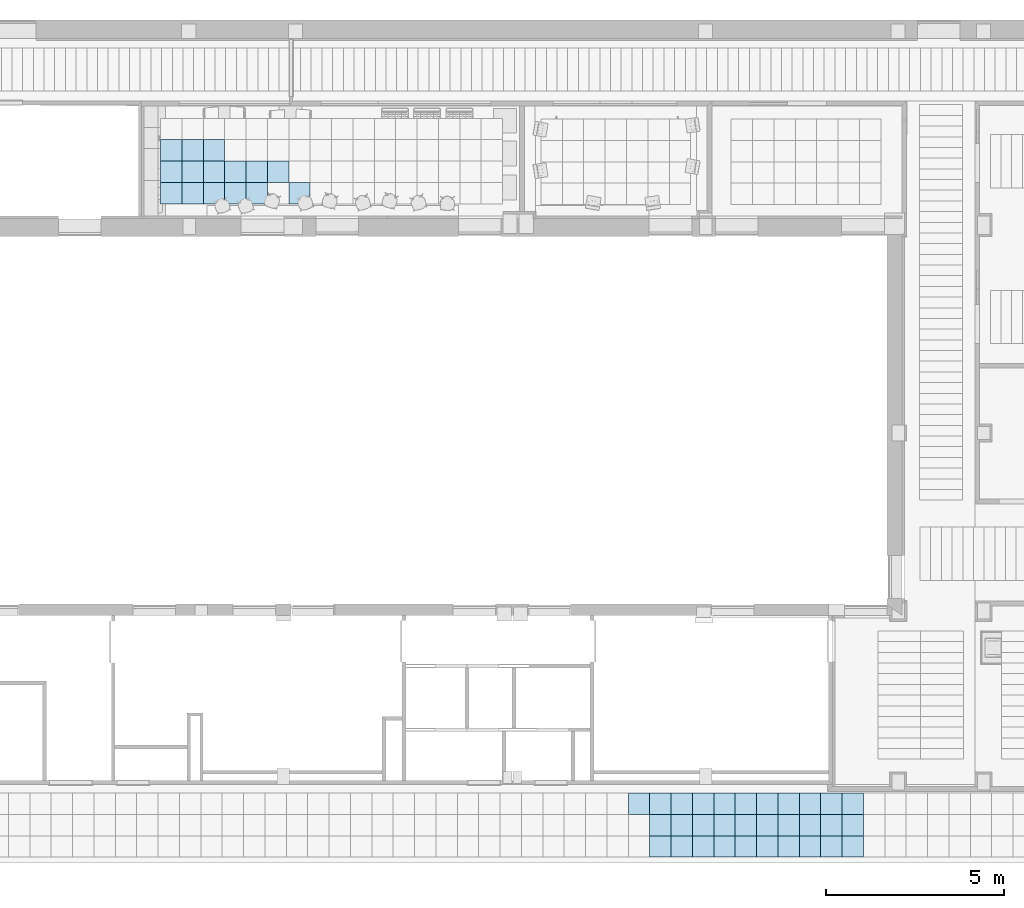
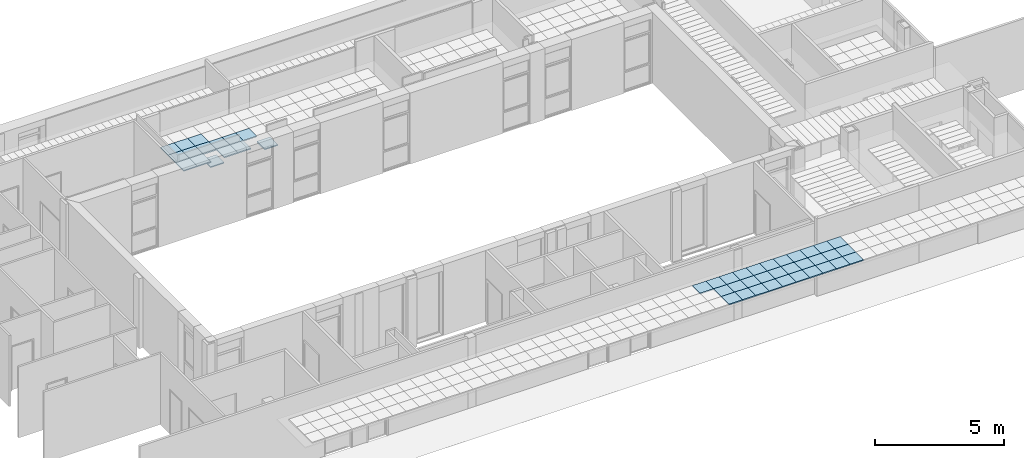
# One storey, part 16 of 60: 46 slabs.
"""IFC2X3 building model written with IfcOpenShell, lengths in millimetres."""

from ifc_helpers import new_model, entity, si_unit, converted_unit, derived_unit, money_unit, direction, frame, origin_with_axes, place, context, subcontext, project, spatial, polyline, outline, extrude, material, layer, layer_set, layer_usage, type_object, element, save


model = new_model("IFC2X3")

# Units and contexts
model_context = context("Model", 3, precision=0.01, world=origin_with_axes(), true_north=direction((0.0, 1.0)))
body_context = subcontext(model_context, "Body", "Model", "MODEL_VIEW")
ifc_project = project(units=[si_unit("LENGTHUNIT", "METRE", prefix="MILLI"), si_unit("AREAUNIT", "SQUARE_METRE"), si_unit("VOLUMEUNIT", "CUBIC_METRE"), converted_unit("PLANEANGLEUNIT", "DEGREE", entity("IfcPlaneAngleMeasure", 0.0174532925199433), si_unit("PLANEANGLEUNIT", "RADIAN"), dimensions=[0, 0, 0, 0, 0, 0, 0]), money_unit("USD"), converted_unit("TIMEUNIT", "Year", entity("IfcTimeMeasure", 31557600.0), si_unit("TIMEUNIT", "SECOND"), dimensions=[0, 0, 1, 0, 0, 0, 0]), si_unit("MASSUNIT", "GRAM", prefix="KILO"), si_unit("THERMODYNAMICTEMPERATUREUNIT", "DEGREE_CELSIUS"), si_unit("LUMINOUSINTENSITYUNIT", "LUMEN"), si_unit("ENERGYUNIT", "JOULE", prefix="MEGA"), derived_unit("THERMALCONDUCTANCEUNIT", [(si_unit("POWERUNIT", "WATT"), 1), (si_unit("LENGTHUNIT", "METRE"), -1), (si_unit("THERMODYNAMICTEMPERATUREUNIT", "KELVIN"), -1)]), derived_unit("SPECIFICHEATCAPACITYUNIT", [(si_unit("ENERGYUNIT", "JOULE"), 1), (si_unit("MASSUNIT", "GRAM", prefix="KILO"), -1), (si_unit("THERMODYNAMICTEMPERATUREUNIT", "KELVIN"), -1)]), derived_unit("MASSDENSITYUNIT", [(si_unit("MASSUNIT", "GRAM", prefix="KILO"), 1), (si_unit("VOLUMEUNIT", "CUBIC_METRE"), -1)])], contexts=[model_context])

# Site, building, storey
site_placement = place(None, origin_with_axes())
site = spatial("IfcSite", under=ifc_project, at=site_placement, Name="Sitio", CompositionType="ELEMENT")
building_placement = place(site_placement, origin_with_axes())
building = spatial("IfcBuilding", under=site, at=building_placement, Name="Construcción", CompositionType="ELEMENT")
storey_placement = place(building_placement, frame((0.0, 0.0, 3650.0), z_axis=(0.0, 0.0, 1.0), x_axis=(1.0, 0.0, 0.0)))
storey = spatial("IfcBuildingStorey", under=building, at=storey_placement, Name="PLANTA 2ª", CompositionType="ELEMENT", Elevation=3650.0)

# Slabs
ifc_material = material(Name="ARQ_CE217_Armstrong 60x60")
ifc_layer = layer(ifc_material, 50.0, ventilated="UNKNOWN")
ifc_layer_set = layer_set([ifc_layer], Name="ARQ_CE217_Armstrong 60x60 50")
ifc_layer_usage_1 = layer_usage(ifc_layer_set, "AXIS3", "NEGATIVE", 50.0)
slab_type = type_object("IfcSlabType", Name="ARQ_CE217_Armstrong 60x60 50", PredefinedType="NOTDEFINED")
slab_1_placement = place(storey_placement, frame((-19498.41789761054, -182.7104764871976, 2500.0), z_axis=(0.0, 0.0, 1.0), x_axis=(1.0, 0.0, 0.0)))
element("IfcSlab", 1, at=slab_1_placement, inside=storey, type_object=slab_type, material=ifc_layer_usage_1, Name="SLA - 026", PredefinedType="NOTDEFINED", context=body_context, shape_type="SweptSolid", body=[
    extrude(outline(polyline([(0.0, 0.0), (599.9999999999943, 0.0), (599.9999999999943, 600.0000000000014), (0.0, 600.0000000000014), (0.0, 0.0)])), frame((0.0, 0.0, -50.0), z_axis=(0.0, 0.0, 1.0), x_axis=(1.0, 0.0, 0.0)), (0.0, 0.0, 1.0), 50.0),
])
ifc_layer_usage_2 = layer_usage(ifc_layer_set, "AXIS3", "NEGATIVE", 50.0)
slab_2_placement = place(storey_placement, frame((-20098.41789761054, -782.710476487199, 2500.0), z_axis=(0.0, 0.0, 1.0), x_axis=(1.0, 0.0, 0.0)))
element("IfcSlab", 2, at=slab_2_placement, inside=storey, type_object=slab_type, material=ifc_layer_usage_2, Name="SLA - 026", PredefinedType="NOTDEFINED", context=body_context, shape_type="SweptSolid", body=[
    extrude(outline(polyline([(0.0, 0.0), (600.000000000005, 0.0), (600.000000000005, 600.0000000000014), (0.0, 600.0000000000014), (0.0, 0.0)])), frame((0.0, 0.0, -50.0), z_axis=(0.0, 0.0, 1.0), x_axis=(1.0, 0.0, 0.0)), (0.0, 0.0, 1.0), 50.0),
])
ifc_layer_usage_3 = layer_usage(ifc_layer_set, "AXIS3", "NEGATIVE", 50.0)
slab_3_placement = place(storey_placement, frame((-21298.41789761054, -782.710476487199, 2250.0), z_axis=(0.0, 0.0, 1.0), x_axis=(1.0, 0.0, 0.0)))
element("IfcSlab", 3, at=slab_3_placement, inside=storey, type_object=slab_type, material=ifc_layer_usage_3, Name="SLA - 026", PredefinedType="NOTDEFINED", context=body_context, shape_type="SweptSolid", body=[
    extrude(outline(polyline([(0.0, 0.0), (599.9999999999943, 0.0), (599.9999999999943, 600.0000000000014), (0.0, 600.0000000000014), (0.0, 0.0)])), frame((0.0, 0.0, -50.0), z_axis=(0.0, 0.0, 1.0), x_axis=(1.0, 0.0, 0.0)), (0.0, 0.0, 1.0), 50.0),
])
ifc_layer_usage_4 = layer_usage(ifc_layer_set, "AXIS3", "NEGATIVE", 50.0)
slab_4_placement = place(storey_placement, frame((-18898.41789761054, -782.710476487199, 2250.0), z_axis=(0.0, 0.0, 1.0), x_axis=(1.0, 0.0, 0.0)))
element("IfcSlab", 4, at=slab_4_placement, inside=storey, type_object=slab_type, material=ifc_layer_usage_4, Name="SLA - 026", PredefinedType="NOTDEFINED", context=body_context, shape_type="SweptSolid", body=[
    extrude(outline(polyline([(0.0, 0.0), (600.0000000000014, 0.0), (600.0000000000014, 600.0000000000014), (0.0, 600.0000000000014), (0.0, 0.0)])), frame((0.0, 0.0, -50.0), z_axis=(0.0, 0.0, 1.0), x_axis=(1.0, 0.0, 0.0)), (0.0, 0.0, 1.0), 50.0),
])
ifc_layer_usage_5 = layer_usage(ifc_layer_set, "AXIS3", "NEGATIVE", 50.0)
slab_5_placement = place(storey_placement, frame((-20098.41789761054, -182.7104764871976, 2500.0), z_axis=(0.0, 0.0, 1.0), x_axis=(1.0, 0.0, 0.0)))
element("IfcSlab", 5, at=slab_5_placement, inside=storey, type_object=slab_type, material=ifc_layer_usage_5, Name="SLA - 026", PredefinedType="NOTDEFINED", context=body_context, shape_type="SweptSolid", body=[
    extrude(outline(polyline([(0.0, 0.0), (600.000000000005, 0.0), (600.000000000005, 600.0000000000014), (0.0, 600.0000000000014), (0.0, 0.0)])), frame((0.0, 0.0, -50.0), z_axis=(0.0, 0.0, 1.0), x_axis=(1.0, 0.0, 0.0)), (0.0, 0.0, 1.0), 50.0),
])
ifc_layer_usage_6 = layer_usage(ifc_layer_set, "AXIS3", "NEGATIVE", 50.0)
slab_6_placement = place(storey_placement, frame((-22498.41789761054, -782.710476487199, 2500.0), z_axis=(0.0, 0.0, 1.0), x_axis=(1.0, 0.0, 0.0)))
element("IfcSlab", 6, at=slab_6_placement, inside=storey, type_object=slab_type, material=ifc_layer_usage_6, Name="SLA - 026", PredefinedType="NOTDEFINED", context=body_context, shape_type="SweptSolid", body=[
    extrude(outline(polyline([(0.0, 0.0), (600.0000000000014, 0.0), (600.0000000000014, 600.0000000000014), (0.0, 600.0000000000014), (0.0, 0.0)])), frame((0.0, 0.0, -50.0), z_axis=(0.0, 0.0, 1.0), x_axis=(1.0, 0.0, 0.0)), (0.0, 0.0, 1.0), 50.0),
])
ifc_layer_usage_7 = layer_usage(ifc_layer_set, "AXIS3", "NEGATIVE", 50.0)
slab_7_placement = place(storey_placement, frame((-21898.41789761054, -182.7104764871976, 2500.0), z_axis=(0.0, 0.0, 1.0), x_axis=(1.0, 0.0, 0.0)))
element("IfcSlab", 7, at=slab_7_placement, inside=storey, type_object=slab_type, material=ifc_layer_usage_7, Name="SLA - 026", PredefinedType="NOTDEFINED", context=body_context, shape_type="SweptSolid", body=[
    extrude(outline(polyline([(0.0, 0.0), (600.0000000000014, 0.0), (600.0000000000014, 600.0000000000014), (0.0, 600.0000000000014), (0.0, 0.0)])), frame((0.0, 0.0, -50.0), z_axis=(0.0, 0.0, 1.0), x_axis=(1.0, 0.0, 0.0)), (0.0, 0.0, 1.0), 50.0),
])
ifc_layer_usage_8 = layer_usage(ifc_layer_set, "AXIS3", "NEGATIVE", 50.0)
slab_8_placement = place(storey_placement, frame((-22498.41789761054, -182.7104764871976, 2500.0), z_axis=(0.0, 0.0, 1.0), x_axis=(1.0, 0.0, 0.0)))
element("IfcSlab", 8, at=slab_8_placement, inside=storey, type_object=slab_type, material=ifc_layer_usage_8, Name="SLA - 026", PredefinedType="NOTDEFINED", context=body_context, shape_type="SweptSolid", body=[
    extrude(outline(polyline([(0.0, 0.0), (600.0000000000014, 0.0), (600.0000000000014, 600.0000000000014), (0.0, 600.0000000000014), (0.0, 0.0)])), frame((0.0, 0.0, -50.0), z_axis=(0.0, 0.0, 1.0), x_axis=(1.0, 0.0, 0.0)), (0.0, 0.0, 1.0), 50.0),
])
ifc_layer_usage_9 = layer_usage(ifc_layer_set, "AXIS3", "NEGATIVE", 50.0)
slab_9_placement = place(storey_placement, frame((-20698.41789761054, -782.710476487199, 2500.0), z_axis=(0.0, 0.0, 1.0), x_axis=(1.0, 0.0, 0.0)))
element("IfcSlab", 9, at=slab_9_placement, inside=storey, type_object=slab_type, material=ifc_layer_usage_9, Name="SLA - 026", PredefinedType="NOTDEFINED", context=body_context, shape_type="SweptSolid", body=[
    extrude(outline(polyline([(0.0, 0.0), (600.0000000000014, 0.0), (600.0000000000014, 600.0000000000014), (0.0, 600.0000000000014), (0.0, 0.0)])), frame((0.0, 0.0, -50.0), z_axis=(0.0, 0.0, 1.0), x_axis=(1.0, 0.0, 0.0)), (0.0, 0.0, 1.0), 50.0),
])
ifc_layer_usage_10 = layer_usage(ifc_layer_set, "AXIS3", "NEGATIVE", 50.0)
slab_10_placement = place(storey_placement, frame((-21298.41789761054, -182.7104764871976, 2500.0), z_axis=(0.0, 0.0, 1.0), x_axis=(1.0, 0.0, 0.0)))
element("IfcSlab", 10, at=slab_10_placement, inside=storey, type_object=slab_type, material=ifc_layer_usage_10, Name="SLA - 026", PredefinedType="NOTDEFINED", context=body_context, shape_type="SweptSolid", body=[
    extrude(outline(polyline([(0.0, 0.0), (599.9999999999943, 0.0), (599.9999999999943, 600.0000000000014), (0.0, 600.0000000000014), (0.0, 0.0)])), frame((0.0, 0.0, -50.0), z_axis=(0.0, 0.0, 1.0), x_axis=(1.0, 0.0, 0.0)), (0.0, 0.0, 1.0), 50.0),
])
ifc_layer_usage_11 = layer_usage(ifc_layer_set, "AXIS3", "NEGATIVE", 50.0)
slab_11_placement = place(storey_placement, frame((-21898.41789761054, 417.2895235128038, 2500.0), z_axis=(0.0, 0.0, 1.0), x_axis=(1.0, 0.0, 0.0)))
element("IfcSlab", 11, at=slab_11_placement, inside=storey, type_object=slab_type, material=ifc_layer_usage_11, Name="SLA - 026", PredefinedType="NOTDEFINED", context=body_context, shape_type="SweptSolid", body=[
    extrude(outline(polyline([(0.0, 0.0), (600.0000000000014, 0.0), (600.0000000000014, 600.0000000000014), (0.0, 600.0000000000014), (0.0, 0.0)])), frame((0.0, 0.0, -50.0), z_axis=(0.0, 0.0, 1.0), x_axis=(1.0, 0.0, 0.0)), (0.0, 0.0, 1.0), 50.0),
])
ifc_layer_usage_12 = layer_usage(ifc_layer_set, "AXIS3", "NEGATIVE", 50.0)
slab_12_placement = place(storey_placement, frame((-20698.41789761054, -182.7104764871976, 2500.0), z_axis=(0.0, 0.0, 1.0), x_axis=(1.0, 0.0, 0.0)))
element("IfcSlab", 12, at=slab_12_placement, inside=storey, type_object=slab_type, material=ifc_layer_usage_12, Name="SLA - 026", PredefinedType="NOTDEFINED", context=body_context, shape_type="SweptSolid", body=[
    extrude(outline(polyline([(0.0, 0.0), (600.0000000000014, 0.0), (600.0000000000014, 600.0000000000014), (0.0, 600.0000000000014), (0.0, 0.0)])), frame((0.0, 0.0, -50.0), z_axis=(0.0, 0.0, 1.0), x_axis=(1.0, 0.0, 0.0)), (0.0, 0.0, 1.0), 50.0),
])
ifc_layer_usage_13 = layer_usage(ifc_layer_set, "AXIS3", "NEGATIVE", 50.0)
slab_13_placement = place(storey_placement, frame((-21298.41789761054, 417.2895235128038, 2500.0), z_axis=(0.0, 0.0, 1.0), x_axis=(1.0, 0.0, 0.0)))
element("IfcSlab", 13, at=slab_13_placement, inside=storey, type_object=slab_type, material=ifc_layer_usage_13, Name="SLA - 026", PredefinedType="NOTDEFINED", context=body_context, shape_type="SweptSolid", body=[
    extrude(outline(polyline([(0.0, 0.0), (599.9999999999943, 0.0), (599.9999999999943, 600.0000000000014), (0.0, 600.0000000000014), (0.0, 0.0)])), frame((0.0, 0.0, -50.0), z_axis=(0.0, 0.0, 1.0), x_axis=(1.0, 0.0, 0.0)), (0.0, 0.0, 1.0), 50.0),
])
ifc_layer_usage_14 = layer_usage(ifc_layer_set, "AXIS3", "NEGATIVE", 50.0)
slab_14_placement = place(storey_placement, frame((-22498.41789761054, 417.2895235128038, 2500.0), z_axis=(0.0, 0.0, 1.0), x_axis=(1.0, 0.0, 0.0)))
element("IfcSlab", 14, at=slab_14_placement, inside=storey, type_object=slab_type, material=ifc_layer_usage_14, Name="SLA - 026", PredefinedType="NOTDEFINED", context=body_context, shape_type="SweptSolid", body=[
    extrude(outline(polyline([(0.0, 0.0), (600.0000000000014, 0.0), (600.0000000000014, 600.0000000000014), (0.0, 600.0000000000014), (0.0, 0.0)])), frame((0.0, 0.0, -50.0), z_axis=(0.0, 0.0, 1.0), x_axis=(1.0, 0.0, 0.0)), (0.0, 0.0, 1.0), 50.0),
])
ifc_layer_usage_15 = layer_usage(ifc_layer_set, "AXIS3", "NEGATIVE", 50.0)
slab_15_placement = place(storey_placement, frame((-21898.41789761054, -782.710476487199, 2500.0), z_axis=(0.0, 0.0, 1.0), x_axis=(1.0, 0.0, 0.0)))
element("IfcSlab", 15, at=slab_15_placement, inside=storey, type_object=slab_type, material=ifc_layer_usage_15, Name="SLA - 026", PredefinedType="NOTDEFINED", context=body_context, shape_type="SweptSolid", body=[
    extrude(outline(polyline([(0.0, 0.0), (600.0000000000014, 0.0), (600.0000000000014, 600.0000000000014), (0.0, 600.0000000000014), (0.0, 0.0)])), frame((0.0, 0.0, -50.0), z_axis=(0.0, 0.0, 1.0), x_axis=(1.0, 0.0, 0.0)), (0.0, 0.0, 1.0), 50.0),
])
ifc_layer_usage_16 = layer_usage(ifc_layer_set, "AXIS3", "NEGATIVE", 50.0)
slab_16_placement = place(storey_placement, frame((-9369.70328336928, -17921.97576450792, 2500.0), z_axis=(0.0, 0.0, 1.0), x_axis=(1.0, 0.0, 0.0)))
element("IfcSlab", 16, at=slab_16_placement, inside=storey, type_object=slab_type, material=ifc_layer_usage_16, Name="SLA - 026", PredefinedType="NOTDEFINED", context=body_context, shape_type="SweptSolid", body=[
    extrude(outline(polyline([(0.0, 0.0), (600.0000000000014, 0.0), (600.0000000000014, 600.0000000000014), (0.0, 600.0000000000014), (0.0, 0.0)])), frame((0.0, 0.0, -50.0), z_axis=(0.0, 0.0, 1.0), x_axis=(1.0, 0.0, 0.0)), (0.0, 0.0, 1.0), 50.0),
])
ifc_layer_usage_17 = layer_usage(ifc_layer_set, "AXIS3", "NEGATIVE", 50.0)
slab_17_placement = place(storey_placement, frame((-8769.703283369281, -19121.97576450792, 2500.0), z_axis=(0.0, 0.0, 1.0), x_axis=(1.0, 0.0, 0.0)))
element("IfcSlab", 17, at=slab_17_placement, inside=storey, type_object=slab_type, material=ifc_layer_usage_17, Name="SLA - 026", PredefinedType="NOTDEFINED", context=body_context, shape_type="SweptSolid", body=[
    extrude(outline(polyline([(0.0, 0.0), (600.0000000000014, 0.0), (600.0000000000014, 600.0000000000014), (0.0, 600.0000000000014), (0.0, 0.0)])), frame((0.0, 0.0, -50.0), z_axis=(0.0, 0.0, 1.0), x_axis=(1.0, 0.0, 0.0)), (0.0, 0.0, 1.0), 50.0),
])
ifc_layer_usage_18 = layer_usage(ifc_layer_set, "AXIS3", "NEGATIVE", 50.0)
slab_18_placement = place(storey_placement, frame((-8769.703283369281, -18521.97576450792, 2500.0), z_axis=(0.0, 0.0, 1.0), x_axis=(1.0, 0.0, 0.0)))
element("IfcSlab", 18, at=slab_18_placement, inside=storey, type_object=slab_type, material=ifc_layer_usage_18, Name="SLA - 026", PredefinedType="NOTDEFINED", context=body_context, shape_type="SweptSolid", body=[
    extrude(outline(polyline([(0.0, 0.0), (600.0000000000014, 0.0), (600.0000000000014, 600.0000000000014), (0.0, 600.0000000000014), (0.0, 0.0)])), frame((0.0, 0.0, -50.0), z_axis=(0.0, 0.0, 1.0), x_axis=(1.0, 0.0, 0.0)), (0.0, 0.0, 1.0), 50.0),
])
ifc_layer_usage_19 = layer_usage(ifc_layer_set, "AXIS3", "NEGATIVE", 50.0)
slab_19_placement = place(storey_placement, frame((-8769.703283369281, -17921.97576450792, 2500.0), z_axis=(0.0, 0.0, 1.0), x_axis=(1.0, 0.0, 0.0)))
element("IfcSlab", 19, at=slab_19_placement, inside=storey, type_object=slab_type, material=ifc_layer_usage_19, Name="SLA - 026", PredefinedType="NOTDEFINED", context=body_context, shape_type="SweptSolid", body=[
    extrude(outline(polyline([(0.0, 0.0), (600.0000000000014, 0.0), (600.0000000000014, 600.0000000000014), (0.0, 600.0000000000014), (0.0, 0.0)])), frame((0.0, 0.0, -50.0), z_axis=(0.0, 0.0, 1.0), x_axis=(1.0, 0.0, 0.0)), (0.0, 0.0, 1.0), 50.0),
])
ifc_layer_usage_20 = layer_usage(ifc_layer_set, "AXIS3", "NEGATIVE", 50.0)
slab_20_placement = place(storey_placement, frame((-8169.70328336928, -18521.97576450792, 2500.0), z_axis=(0.0, 0.0, 1.0), x_axis=(1.0, 0.0, 0.0)))
element("IfcSlab", 20, at=slab_20_placement, inside=storey, type_object=slab_type, material=ifc_layer_usage_20, Name="SLA - 026", PredefinedType="NOTDEFINED", context=body_context, shape_type="SweptSolid", body=[
    extrude(outline(polyline([(0.0, 0.0), (600.0000000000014, 0.0), (600.0000000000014, 600.0000000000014), (0.0, 600.0000000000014), (0.0, 0.0)])), frame((0.0, 0.0, -50.0), z_axis=(0.0, 0.0, 1.0), x_axis=(1.0, 0.0, 0.0)), (0.0, 0.0, 1.0), 50.0),
])
ifc_layer_usage_21 = layer_usage(ifc_layer_set, "AXIS3", "NEGATIVE", 50.0)
slab_21_placement = place(storey_placement, frame((-8169.70328336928, -17921.97576450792, 2500.0), z_axis=(0.0, 0.0, 1.0), x_axis=(1.0, 0.0, 0.0)))
element("IfcSlab", 21, at=slab_21_placement, inside=storey, type_object=slab_type, material=ifc_layer_usage_21, Name="SLA - 026", PredefinedType="NOTDEFINED", context=body_context, shape_type="SweptSolid", body=[
    extrude(outline(polyline([(0.0, 0.0), (600.0000000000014, 0.0), (600.0000000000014, 600.0000000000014), (0.0, 600.0000000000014), (0.0, 0.0)])), frame((0.0, 0.0, -50.0), z_axis=(0.0, 0.0, 1.0), x_axis=(1.0, 0.0, 0.0)), (0.0, 0.0, 1.0), 50.0),
])
ifc_layer_usage_22 = layer_usage(ifc_layer_set, "AXIS3", "NEGATIVE", 50.0)
slab_22_placement = place(storey_placement, frame((-8169.70328336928, -19121.97576450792, 2500.0), z_axis=(0.0, 0.0, 1.0), x_axis=(1.0, 0.0, 0.0)))
element("IfcSlab", 22, at=slab_22_placement, inside=storey, type_object=slab_type, material=ifc_layer_usage_22, Name="SLA - 026", PredefinedType="NOTDEFINED", context=body_context, shape_type="SweptSolid", body=[
    extrude(outline(polyline([(0.0, 0.0), (600.0000000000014, 0.0), (600.0000000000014, 600.0000000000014), (0.0, 600.0000000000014), (0.0, 0.0)])), frame((0.0, 0.0, -50.0), z_axis=(0.0, 0.0, 1.0), x_axis=(1.0, 0.0, 0.0)), (0.0, 0.0, 1.0), 50.0),
])
ifc_layer_usage_23 = layer_usage(ifc_layer_set, "AXIS3", "NEGATIVE", 50.0)
slab_23_placement = place(storey_placement, frame((-7569.703283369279, -18521.97576450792, 2500.0), z_axis=(0.0, 0.0, 1.0), x_axis=(1.0, 0.0, 0.0)))
element("IfcSlab", 23, at=slab_23_placement, inside=storey, type_object=slab_type, material=ifc_layer_usage_23, Name="SLA - 026", PredefinedType="NOTDEFINED", context=body_context, shape_type="SweptSolid", body=[
    extrude(outline(polyline([(0.0, 0.0), (600.0000000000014, 0.0), (600.0000000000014, 600.0000000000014), (0.0, 600.0000000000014), (0.0, 0.0)])), frame((0.0, 0.0, -50.0), z_axis=(0.0, 0.0, 1.0), x_axis=(1.0, 0.0, 0.0)), (0.0, 0.0, 1.0), 50.0),
])
ifc_layer_usage_24 = layer_usage(ifc_layer_set, "AXIS3", "NEGATIVE", 50.0)
slab_24_placement = place(storey_placement, frame((-7569.703283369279, -19121.97576450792, 2500.0), z_axis=(0.0, 0.0, 1.0), x_axis=(1.0, 0.0, 0.0)))
element("IfcSlab", 24, at=slab_24_placement, inside=storey, type_object=slab_type, material=ifc_layer_usage_24, Name="SLA - 026", PredefinedType="NOTDEFINED", context=body_context, shape_type="SweptSolid", body=[
    extrude(outline(polyline([(0.0, 0.0), (600.0000000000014, 0.0), (600.0000000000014, 600.0000000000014), (0.0, 600.0000000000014), (0.0, 0.0)])), frame((0.0, 0.0, -50.0), z_axis=(0.0, 0.0, 1.0), x_axis=(1.0, 0.0, 0.0)), (0.0, 0.0, 1.0), 50.0),
])
ifc_layer_usage_25 = layer_usage(ifc_layer_set, "AXIS3", "NEGATIVE", 50.0)
slab_25_placement = place(storey_placement, frame((-7569.703283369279, -17921.97576450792, 2500.0), z_axis=(0.0, 0.0, 1.0), x_axis=(1.0, 0.0, 0.0)))
element("IfcSlab", 25, at=slab_25_placement, inside=storey, type_object=slab_type, material=ifc_layer_usage_25, Name="SLA - 026", PredefinedType="NOTDEFINED", context=body_context, shape_type="SweptSolid", body=[
    extrude(outline(polyline([(0.0, 0.0), (600.0000000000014, 0.0), (600.0000000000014, 600.0000000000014), (0.0, 600.0000000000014), (0.0, 0.0)])), frame((0.0, 0.0, -50.0), z_axis=(0.0, 0.0, 1.0), x_axis=(1.0, 0.0, 0.0)), (0.0, 0.0, 1.0), 50.0),
])
ifc_layer_usage_26 = layer_usage(ifc_layer_set, "AXIS3", "NEGATIVE", 50.0)
slab_26_placement = place(storey_placement, frame((-6969.703283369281, -19121.97576450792, 2500.0), z_axis=(0.0, 0.0, 1.0), x_axis=(1.0, 0.0, 0.0)))
element("IfcSlab", 26, at=slab_26_placement, inside=storey, type_object=slab_type, material=ifc_layer_usage_26, Name="SLA - 026", PredefinedType="NOTDEFINED", context=body_context, shape_type="SweptSolid", body=[
    extrude(outline(polyline([(0.0, 0.0), (600.0000000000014, 0.0), (600.0000000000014, 600.0000000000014), (0.0, 600.0000000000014), (0.0, 0.0)])), frame((0.0, 0.0, -50.0), z_axis=(0.0, 0.0, 1.0), x_axis=(1.0, 0.0, 0.0)), (0.0, 0.0, 1.0), 50.0),
])
ifc_layer_usage_27 = layer_usage(ifc_layer_set, "AXIS3", "NEGATIVE", 50.0)
slab_27_placement = place(storey_placement, frame((-6969.703283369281, -17921.97576450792, 2500.0), z_axis=(0.0, 0.0, 1.0), x_axis=(1.0, 0.0, 0.0)))
element("IfcSlab", 27, at=slab_27_placement, inside=storey, type_object=slab_type, material=ifc_layer_usage_27, Name="SLA - 026", PredefinedType="NOTDEFINED", context=body_context, shape_type="SweptSolid", body=[
    extrude(outline(polyline([(0.0, 0.0), (600.0000000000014, 0.0), (600.0000000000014, 600.0000000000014), (0.0, 600.0000000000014), (0.0, 0.0)])), frame((0.0, 0.0, -50.0), z_axis=(0.0, 0.0, 1.0), x_axis=(1.0, 0.0, 0.0)), (0.0, 0.0, 1.0), 50.0),
])
ifc_layer_usage_28 = layer_usage(ifc_layer_set, "AXIS3", "NEGATIVE", 50.0)
slab_28_placement = place(storey_placement, frame((-6969.703283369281, -18521.97576450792, 2500.0), z_axis=(0.0, 0.0, 1.0), x_axis=(1.0, 0.0, 0.0)))
element("IfcSlab", 28, at=slab_28_placement, inside=storey, type_object=slab_type, material=ifc_layer_usage_28, Name="SLA - 026", PredefinedType="NOTDEFINED", context=body_context, shape_type="SweptSolid", body=[
    extrude(outline(polyline([(0.0, 0.0), (600.0000000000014, 0.0), (600.0000000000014, 600.0000000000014), (0.0, 600.0000000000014), (0.0, 0.0)])), frame((0.0, 0.0, -50.0), z_axis=(0.0, 0.0, 1.0), x_axis=(1.0, 0.0, 0.0)), (0.0, 0.0, 1.0), 50.0),
])
ifc_layer_usage_29 = layer_usage(ifc_layer_set, "AXIS3", "NEGATIVE", 50.0)
slab_29_placement = place(storey_placement, frame((-6369.703283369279, -19121.97576450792, 2500.0), z_axis=(0.0, 0.0, 1.0), x_axis=(1.0, 0.0, 0.0)))
element("IfcSlab", 29, at=slab_29_placement, inside=storey, type_object=slab_type, material=ifc_layer_usage_29, Name="SLA - 026", PredefinedType="NOTDEFINED", context=body_context, shape_type="SweptSolid", body=[
    extrude(outline(polyline([(0.0, 0.0), (600.0000000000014, 0.0), (600.0000000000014, 600.0000000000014), (0.0, 600.0000000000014), (0.0, 0.0)])), frame((0.0, 0.0, -50.0), z_axis=(0.0, 0.0, 1.0), x_axis=(1.0, 0.0, 0.0)), (0.0, 0.0, 1.0), 50.0),
])
ifc_layer_usage_30 = layer_usage(ifc_layer_set, "AXIS3", "NEGATIVE", 50.0)
slab_30_placement = place(storey_placement, frame((-6369.703283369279, -17921.97576450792, 2500.0), z_axis=(0.0, 0.0, 1.0), x_axis=(1.0, 0.0, 0.0)))
element("IfcSlab", 30, at=slab_30_placement, inside=storey, type_object=slab_type, material=ifc_layer_usage_30, Name="SLA - 026", PredefinedType="NOTDEFINED", context=body_context, shape_type="SweptSolid", body=[
    extrude(outline(polyline([(0.0, 0.0), (600.0000000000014, 0.0), (600.0000000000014, 600.0000000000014), (0.0, 600.0000000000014), (0.0, 0.0)])), frame((0.0, 0.0, -50.0), z_axis=(0.0, 0.0, 1.0), x_axis=(1.0, 0.0, 0.0)), (0.0, 0.0, 1.0), 50.0),
])
ifc_layer_usage_31 = layer_usage(ifc_layer_set, "AXIS3", "NEGATIVE", 50.0)
slab_31_placement = place(storey_placement, frame((-6369.703283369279, -18521.97576450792, 2500.0), z_axis=(0.0, 0.0, 1.0), x_axis=(1.0, 0.0, 0.0)))
element("IfcSlab", 31, at=slab_31_placement, inside=storey, type_object=slab_type, material=ifc_layer_usage_31, Name="SLA - 026", PredefinedType="NOTDEFINED", context=body_context, shape_type="SweptSolid", body=[
    extrude(outline(polyline([(0.0, 0.0), (600.0000000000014, 0.0), (600.0000000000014, 600.0000000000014), (0.0, 600.0000000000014), (0.0, 0.0)])), frame((0.0, 0.0, -50.0), z_axis=(0.0, 0.0, 1.0), x_axis=(1.0, 0.0, 0.0)), (0.0, 0.0, 1.0), 50.0),
])
ifc_layer_usage_32 = layer_usage(ifc_layer_set, "AXIS3", "NEGATIVE", 50.0)
slab_32_placement = place(storey_placement, frame((-5769.703283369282, -19121.97576450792, 2500.0), z_axis=(0.0, 0.0, 1.0), x_axis=(1.0, 0.0, 0.0)))
element("IfcSlab", 32, at=slab_32_placement, inside=storey, type_object=slab_type, material=ifc_layer_usage_32, Name="SLA - 026", PredefinedType="NOTDEFINED", context=body_context, shape_type="SweptSolid", body=[
    extrude(outline(polyline([(0.0, 0.0), (600.0000000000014, 0.0), (600.0000000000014, 600.0000000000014), (0.0, 600.0000000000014), (0.0, 0.0)])), frame((0.0, 0.0, -50.0), z_axis=(0.0, 0.0, 1.0), x_axis=(1.0, 0.0, 0.0)), (0.0, 0.0, 1.0), 50.0),
])
ifc_layer_usage_33 = layer_usage(ifc_layer_set, "AXIS3", "NEGATIVE", 50.0)
slab_33_placement = place(storey_placement, frame((-5769.703283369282, -18521.97576450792, 2500.0), z_axis=(0.0, 0.0, 1.0), x_axis=(1.0, 0.0, 0.0)))
element("IfcSlab", 33, at=slab_33_placement, inside=storey, type_object=slab_type, material=ifc_layer_usage_33, Name="SLA - 026", PredefinedType="NOTDEFINED", context=body_context, shape_type="SweptSolid", body=[
    extrude(outline(polyline([(0.0, 0.0), (600.0000000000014, 0.0), (600.0000000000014, 600.0000000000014), (0.0, 600.0000000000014), (0.0, 0.0)])), frame((0.0, 0.0, -50.0), z_axis=(0.0, 0.0, 1.0), x_axis=(1.0, 0.0, 0.0)), (0.0, 0.0, 1.0), 50.0),
])
ifc_layer_usage_34 = layer_usage(ifc_layer_set, "AXIS3", "NEGATIVE", 50.0)
slab_34_placement = place(storey_placement, frame((-5769.703283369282, -17921.97576450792, 2500.0), z_axis=(0.0, 0.0, 1.0), x_axis=(1.0, 0.0, 0.0)))
element("IfcSlab", 34, at=slab_34_placement, inside=storey, type_object=slab_type, material=ifc_layer_usage_34, Name="SLA - 026", PredefinedType="NOTDEFINED", context=body_context, shape_type="SweptSolid", body=[
    extrude(outline(polyline([(0.0, 0.0), (600.0000000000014, 0.0), (600.0000000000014, 600.0000000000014), (0.0, 600.0000000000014), (0.0, 0.0)])), frame((0.0, 0.0, -50.0), z_axis=(0.0, 0.0, 1.0), x_axis=(1.0, 0.0, 0.0)), (0.0, 0.0, 1.0), 50.0),
])
ifc_layer_usage_35 = layer_usage(ifc_layer_set, "AXIS3", "NEGATIVE", 50.0)
slab_35_placement = place(storey_placement, frame((-5169.70328336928, -19121.97576450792, 2500.0), z_axis=(0.0, 0.0, 1.0), x_axis=(1.0, 0.0, 0.0)))
element("IfcSlab", 35, at=slab_35_placement, inside=storey, type_object=slab_type, material=ifc_layer_usage_35, Name="SLA - 026", PredefinedType="NOTDEFINED", context=body_context, shape_type="SweptSolid", body=[
    extrude(outline(polyline([(0.0, 0.0), (600.0000000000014, 0.0), (600.0000000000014, 600.0000000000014), (0.0, 600.0000000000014), (0.0, 0.0)])), frame((0.0, 0.0, -50.0), z_axis=(0.0, 0.0, 1.0), x_axis=(1.0, 0.0, 0.0)), (0.0, 0.0, 1.0), 50.0),
])
ifc_layer_usage_36 = layer_usage(ifc_layer_set, "AXIS3", "NEGATIVE", 50.0)
slab_36_placement = place(storey_placement, frame((-5169.70328336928, -18521.97576450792, 2500.0), z_axis=(0.0, 0.0, 1.0), x_axis=(1.0, 0.0, 0.0)))
element("IfcSlab", 36, at=slab_36_placement, inside=storey, type_object=slab_type, material=ifc_layer_usage_36, Name="SLA - 026", PredefinedType="NOTDEFINED", context=body_context, shape_type="SweptSolid", body=[
    extrude(outline(polyline([(0.0, 0.0), (600.0000000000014, 0.0), (600.0000000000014, 600.0000000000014), (0.0, 600.0000000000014), (0.0, 0.0)])), frame((0.0, 0.0, -50.0), z_axis=(0.0, 0.0, 1.0), x_axis=(1.0, 0.0, 0.0)), (0.0, 0.0, 1.0), 50.0),
])
ifc_layer_usage_37 = layer_usage(ifc_layer_set, "AXIS3", "NEGATIVE", 50.0)
slab_37_placement = place(storey_placement, frame((-5169.70328336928, -17921.97576450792, 2500.0), z_axis=(0.0, 0.0, 1.0), x_axis=(1.0, 0.0, 0.0)))
element("IfcSlab", 37, at=slab_37_placement, inside=storey, type_object=slab_type, material=ifc_layer_usage_37, Name="SLA - 026", PredefinedType="NOTDEFINED", context=body_context, shape_type="SweptSolid", body=[
    extrude(outline(polyline([(0.0, 0.0), (600.0000000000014, 0.0), (600.0000000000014, 600.0000000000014), (0.0, 600.0000000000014), (0.0, 0.0)])), frame((0.0, 0.0, -50.0), z_axis=(0.0, 0.0, 1.0), x_axis=(1.0, 0.0, 0.0)), (0.0, 0.0, 1.0), 50.0),
])
ifc_layer_usage_38 = layer_usage(ifc_layer_set, "AXIS3", "NEGATIVE", 50.0)
slab_38_placement = place(storey_placement, frame((-4569.703283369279, -19121.97576450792, 2500.0), z_axis=(0.0, 0.0, 1.0), x_axis=(1.0, 0.0, 0.0)))
element("IfcSlab", 38, at=slab_38_placement, inside=storey, type_object=slab_type, material=ifc_layer_usage_38, Name="SLA - 026", PredefinedType="NOTDEFINED", context=body_context, shape_type="SweptSolid", body=[
    extrude(outline(polyline([(0.0, 0.0), (600.0000000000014, 0.0), (600.0000000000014, 600.0000000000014), (0.0, 600.0000000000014), (0.0, 0.0)])), frame((0.0, 0.0, -50.0), z_axis=(0.0, 0.0, 1.0), x_axis=(1.0, 0.0, 0.0)), (0.0, 0.0, 1.0), 50.0),
])
ifc_layer_usage_39 = layer_usage(ifc_layer_set, "AXIS3", "NEGATIVE", 50.0)
slab_39_placement = place(storey_placement, frame((-4569.703283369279, -17921.97576450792, 2500.0), z_axis=(0.0, 0.0, 1.0), x_axis=(1.0, 0.0, 0.0)))
element("IfcSlab", 39, at=slab_39_placement, inside=storey, type_object=slab_type, material=ifc_layer_usage_39, Name="SLA - 026", PredefinedType="NOTDEFINED", context=body_context, shape_type="SweptSolid", body=[
    extrude(outline(polyline([(0.0, 0.0), (600.0000000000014, 0.0), (600.0000000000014, 600.0000000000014), (0.0, 600.0000000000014), (0.0, 0.0)])), frame((0.0, 0.0, -50.0), z_axis=(0.0, 0.0, 1.0), x_axis=(1.0, 0.0, 0.0)), (0.0, 0.0, 1.0), 50.0),
])
ifc_layer_usage_40 = layer_usage(ifc_layer_set, "AXIS3", "NEGATIVE", 50.0)
slab_40_placement = place(storey_placement, frame((-4569.703283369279, -18521.97576450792, 2500.0), z_axis=(0.0, 0.0, 1.0), x_axis=(1.0, 0.0, 0.0)))
element("IfcSlab", 40, at=slab_40_placement, inside=storey, type_object=slab_type, material=ifc_layer_usage_40, Name="SLA - 026", PredefinedType="NOTDEFINED", context=body_context, shape_type="SweptSolid", body=[
    extrude(outline(polyline([(0.0, 0.0), (600.0000000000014, 0.0), (600.0000000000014, 600.0000000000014), (0.0, 600.0000000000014), (0.0, 0.0)])), frame((0.0, 0.0, -50.0), z_axis=(0.0, 0.0, 1.0), x_axis=(1.0, 0.0, 0.0)), (0.0, 0.0, 1.0), 50.0),
])
ifc_layer_usage_41 = layer_usage(ifc_layer_set, "AXIS3", "NEGATIVE", 50.0)
slab_41_placement = place(storey_placement, frame((-3969.703283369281, -19121.97576450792, 2500.0), z_axis=(0.0, 0.0, 1.0), x_axis=(1.0, 0.0, 0.0)))
element("IfcSlab", 41, at=slab_41_placement, inside=storey, type_object=slab_type, material=ifc_layer_usage_41, Name="SLA - 026", PredefinedType="NOTDEFINED", context=body_context, shape_type="SweptSolid", body=[
    extrude(outline(polyline([(0.0, 0.0), (600.0000000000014, 0.0), (600.0000000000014, 600.0000000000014), (0.0, 600.0000000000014), (0.0, 0.0)])), frame((0.0, 0.0, -50.0), z_axis=(0.0, 0.0, 1.0), x_axis=(1.0, 0.0, 0.0)), (0.0, 0.0, 1.0), 50.0),
])
ifc_layer_usage_42 = layer_usage(ifc_layer_set, "AXIS3", "NEGATIVE", 50.0)
slab_42_placement = place(storey_placement, frame((-3969.703283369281, -17921.97576450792, 2500.0), z_axis=(0.0, 0.0, 1.0), x_axis=(1.0, 0.0, 0.0)))
element("IfcSlab", 42, at=slab_42_placement, inside=storey, type_object=slab_type, material=ifc_layer_usage_42, Name="SLA - 026", PredefinedType="NOTDEFINED", context=body_context, shape_type="SweptSolid", body=[
    extrude(outline(polyline([(0.0, 0.0), (600.0000000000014, 0.0), (600.0000000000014, 600.0000000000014), (0.0, 600.0000000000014), (0.0, 0.0)])), frame((0.0, 0.0, -50.0), z_axis=(0.0, 0.0, 1.0), x_axis=(1.0, 0.0, 0.0)), (0.0, 0.0, 1.0), 50.0),
])
ifc_layer_usage_43 = layer_usage(ifc_layer_set, "AXIS3", "NEGATIVE", 50.0)
slab_43_placement = place(storey_placement, frame((-3369.70328336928, -19121.97576450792, 2500.0), z_axis=(0.0, 0.0, 1.0), x_axis=(1.0, 0.0, 0.0)))
element("IfcSlab", 43, at=slab_43_placement, inside=storey, type_object=slab_type, material=ifc_layer_usage_43, Name="SLA - 026", PredefinedType="NOTDEFINED", context=body_context, shape_type="SweptSolid", body=[
    extrude(outline(polyline([(0.0, 0.0), (600.0000000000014, 0.0), (600.0000000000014, 600.0000000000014), (0.0, 600.0000000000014), (0.0, 0.0)])), frame((0.0, 0.0, -50.0), z_axis=(0.0, 0.0, 1.0), x_axis=(1.0, 0.0, 0.0)), (0.0, 0.0, 1.0), 50.0),
])
ifc_layer_usage_44 = layer_usage(ifc_layer_set, "AXIS3", "NEGATIVE", 50.0)
slab_44_placement = place(storey_placement, frame((-3969.703283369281, -18521.97576450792, 2500.0), z_axis=(0.0, 0.0, 1.0), x_axis=(1.0, 0.0, 0.0)))
element("IfcSlab", 44, at=slab_44_placement, inside=storey, type_object=slab_type, material=ifc_layer_usage_44, Name="SLA - 026", PredefinedType="NOTDEFINED", context=body_context, shape_type="SweptSolid", body=[
    extrude(outline(polyline([(0.0, 0.0), (600.0000000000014, 0.0), (600.0000000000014, 600.0000000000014), (0.0, 600.0000000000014), (0.0, 0.0)])), frame((0.0, 0.0, -50.0), z_axis=(0.0, 0.0, 1.0), x_axis=(1.0, 0.0, 0.0)), (0.0, 0.0, 1.0), 50.0),
])
ifc_layer_usage_45 = layer_usage(ifc_layer_set, "AXIS3", "NEGATIVE", 50.0)
slab_45_placement = place(storey_placement, frame((-3369.70328336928, -17921.97576450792, 2500.0), z_axis=(0.0, 0.0, 1.0), x_axis=(1.0, 0.0, 0.0)))
element("IfcSlab", 45, at=slab_45_placement, inside=storey, type_object=slab_type, material=ifc_layer_usage_45, Name="SLA - 026", PredefinedType="NOTDEFINED", context=body_context, shape_type="SweptSolid", body=[
    extrude(outline(polyline([(0.0, 0.0), (600.0000000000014, 0.0), (600.0000000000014, 600.0000000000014), (0.0, 600.0000000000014), (0.0, 0.0)])), frame((0.0, 0.0, -50.0), z_axis=(0.0, 0.0, 1.0), x_axis=(1.0, 0.0, 0.0)), (0.0, 0.0, 1.0), 50.0),
])
ifc_layer_usage_46 = layer_usage(ifc_layer_set, "AXIS3", "NEGATIVE", 50.0)
slab_46_placement = place(storey_placement, frame((-3369.70328336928, -18521.97576450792, 2500.0), z_axis=(0.0, 0.0, 1.0), x_axis=(1.0, 0.0, 0.0)))
element("IfcSlab", 46, at=slab_46_placement, inside=storey, type_object=slab_type, material=ifc_layer_usage_46, Name="SLA - 026", PredefinedType="NOTDEFINED", context=body_context, shape_type="SweptSolid", body=[
    extrude(outline(polyline([(0.0, 0.0), (600.0000000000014, 0.0), (600.0000000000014, 600.0000000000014), (0.0, 600.0000000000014), (0.0, 0.0)])), frame((0.0, 0.0, -50.0), z_axis=(0.0, 0.0, 1.0), x_axis=(1.0, 0.0, 0.0)), (0.0, 0.0, 1.0), 50.0),
])

save(model, "model.ifc")
